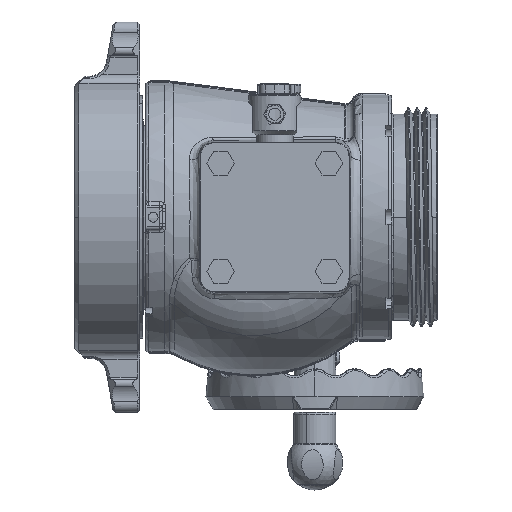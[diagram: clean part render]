
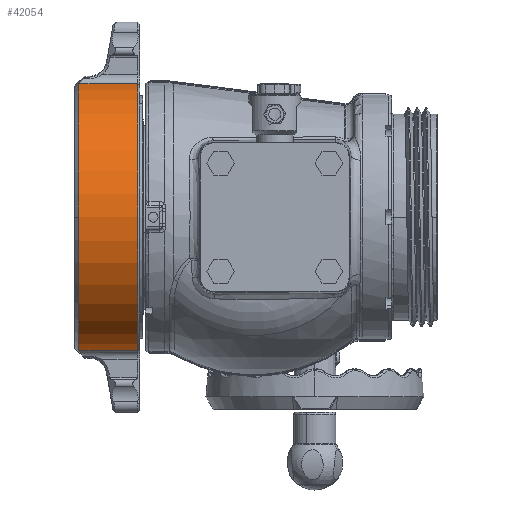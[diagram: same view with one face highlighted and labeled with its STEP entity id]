
A CAD part, front view. The second image highlights one B-rep face of the part: STEP entity #42054.
In plain terms, the highlighted cylindrical face has radius 98.425 mm (diameter 196.85 mm), a partial arc.
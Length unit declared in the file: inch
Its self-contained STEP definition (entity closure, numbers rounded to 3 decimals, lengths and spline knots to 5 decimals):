
#108 = AXIS2_PLACEMENT_3D ( 'NONE', #30113, #30110, #30099 ) ;
#986 = EDGE_CURVE ( 'NONE', #16513, #16504, #88078, .T. ) ;
#988 = EDGE_CURVE ( 'NONE', #16504, #16509, #88074, .T. ) ;
#989 = EDGE_CURVE ( 'NONE', #16676, #16509, #88080, .T. ) ;
#990 = EDGE_CURVE ( 'NONE', #16513, #16677, #88084, .T. ) ;
#6835 = FACE_OUTER_BOUND ( 'NONE', #56217, .T. ) ;
#6839 = CYLINDRICAL_SURFACE ( 'NONE', #108, 3.875 ) ;
#16504 = VERTEX_POINT ( 'NONE', #88402 ) ;
#16509 = VERTEX_POINT ( 'NONE', #88406 ) ;
#16513 = VERTEX_POINT ( 'NONE', #88409 ) ;
#16676 = VERTEX_POINT ( 'NONE', #88630 ) ;
#16677 = VERTEX_POINT ( 'NONE', #88632 ) ;
#30099 = DIRECTION ( 'NONE',  ( 0., 0., -1. ) ) ;
#30110 = DIRECTION ( 'NONE',  ( 1., 0., 0. ) ) ;
#30113 = CARTESIAN_POINT ( 'NONE',  ( -6.13215, -0.44219, 0. ) ) ;
#35969 = AXIS2_PLACEMENT_3D ( 'NONE', #79122, #79123, #79126 ) ;
#42054 = ADVANCED_FACE ( 'NONE', ( #6835 ), #6839, .T. ) ;
#56217 = EDGE_LOOP ( 'NONE', ( #84948, #84950, #84952, #84954, #84956 ) ) ;
#61795 = CIRCLE ( 'NONE', #35969, 3.875 ) ;
#69576 = EDGE_CURVE ( 'NONE', #16677, #16676, #61795, .T. ) ;
#79122 = CARTESIAN_POINT ( 'NONE',  ( -6.00715, -0.44219, 0. ) ) ;
#79123 = DIRECTION ( 'NONE',  ( -1., 0., 0. ) ) ;
#79126 = DIRECTION ( 'NONE',  ( 0., 1., 0. ) ) ;
#84948 = ORIENTED_EDGE ( 'NONE', *, *, #986, .T. ) ;
#84950 = ORIENTED_EDGE ( 'NONE', *, *, #988, .T. ) ;
#84952 = ORIENTED_EDGE ( 'NONE', *, *, #989, .F. ) ;
#84954 = ORIENTED_EDGE ( 'NONE', *, *, #69576, .F. ) ;
#84956 = ORIENTED_EDGE ( 'NONE', *, *, #990, .F. ) ;
#88074 = CIRCLE ( 'NONE', #115908, 3.875 ) ;
#88078 = LINE ( 'NONE', #110332, #88082 ) ;
#88080 = LINE ( 'NONE', #110348, #88089 ) ;
#88082 = VECTOR ( 'NONE', #110336, 39.37008 ) ;
#88084 = CIRCLE ( 'NONE', #115909, 3.875 ) ;
#88089 = VECTOR ( 'NONE', #110358, 39.37008 ) ;
#88402 = CARTESIAN_POINT ( 'NONE',  ( -4.33165, -1.13098, -3.81329 ) ) ;
#88406 = CARTESIAN_POINT ( 'NONE',  ( -4.33165, -1.13098, 3.81329 ) ) ;
#88409 = CARTESIAN_POINT ( 'NONE',  ( -6.00715, -1.13098, -3.81329 ) ) ;
#88630 = CARTESIAN_POINT ( 'NONE',  ( -6.00715, -1.13098, 3.81329 ) ) ;
#88632 = CARTESIAN_POINT ( 'NONE',  ( -6.00715, -4.31719, 0. ) ) ;
#110332 = CARTESIAN_POINT ( 'NONE',  ( -6.13215, -1.13098, -3.81329 ) ) ;
#110336 = DIRECTION ( 'NONE',  ( 1., 0., 0. ) ) ;
#110348 = CARTESIAN_POINT ( 'NONE',  ( -6.13215, -1.13098, 3.81329 ) ) ;
#110358 = DIRECTION ( 'NONE',  ( 1., 0., 0. ) ) ;
#110394 = CARTESIAN_POINT ( 'NONE',  ( -4.33165, -0.44219, 0. ) ) ;
#110396 = DIRECTION ( 'NONE',  ( -1., 0., 0. ) ) ;
#110398 = DIRECTION ( 'NONE',  ( 0., 0., -1. ) ) ;
#110406 = CARTESIAN_POINT ( 'NONE',  ( -6.00715, -0.44219, 0. ) ) ;
#110408 = DIRECTION ( 'NONE',  ( -1., 0., 0. ) ) ;
#110410 = DIRECTION ( 'NONE',  ( 0., 1., 0. ) ) ;
#115908 = AXIS2_PLACEMENT_3D ( 'NONE', #110394, #110396, #110398 ) ;
#115909 = AXIS2_PLACEMENT_3D ( 'NONE', #110406, #110408, #110410 ) ;
